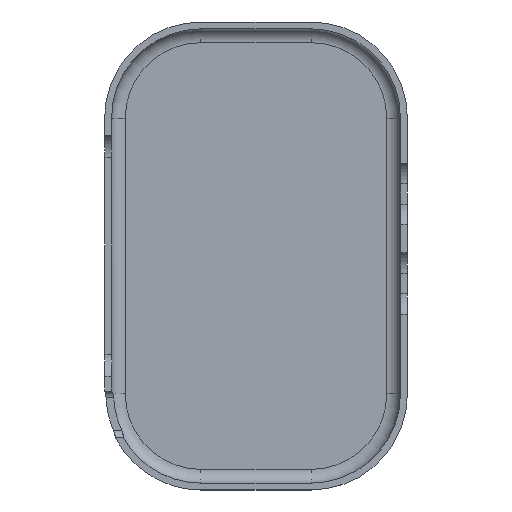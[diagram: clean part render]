
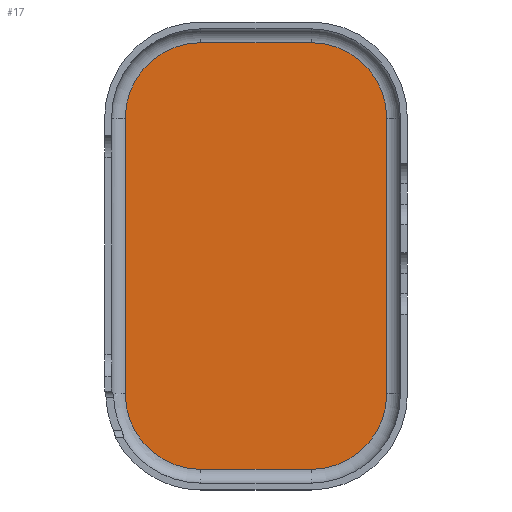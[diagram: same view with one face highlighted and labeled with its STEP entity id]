
A CAD part, top view. The second image highlights one B-rep face of the part: STEP entity #17.
In plain terms, the highlighted planar face has unit normal (0, 0, 1).
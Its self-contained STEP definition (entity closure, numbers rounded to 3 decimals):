
#17 = ADVANCED_FACE('',(#18),#32,.T.);
#18 = FACE_BOUND('',#19,.T.);
#19 = EDGE_LOOP('',(#20,#55,#84,#112,#141,#169,#198,#226));
#20 = ORIENTED_EDGE('',*,*,#21,.T.);
#21 = EDGE_CURVE('',#22,#24,#26,.T.);
#22 = VERTEX_POINT('',#23);
#23 = CARTESIAN_POINT('',(-38.,40.,-11.2));
#24 = VERTEX_POINT('',#25);
#25 = CARTESIAN_POINT('',(-38.,-40.,-11.2));
#26 = SURFACE_CURVE('',#27,(#31,#43),.PCURVE_S1.);
#27 = LINE('',#28,#29);
#28 = CARTESIAN_POINT('',(-38.,33.,-11.2));
#29 = VECTOR('',#30,1.);
#30 = DIRECTION('',(0.,-1.,0.));
#31 = PCURVE('',#32,#37);
#32 = PLANE('',#33);
#33 = AXIS2_PLACEMENT_3D('',#34,#35,#36);
#34 = CARTESIAN_POINT('',(0.,0.,-11.2));
#35 = DIRECTION('',(0.,0.,1.));
#36 = DIRECTION('',(1.,0.,-0.));
#37 = DEFINITIONAL_REPRESENTATION('',(#38),#42);
#38 = LINE('',#39,#40);
#39 = CARTESIAN_POINT('',(-38.,33.));
#40 = VECTOR('',#41,1.);
#41 = DIRECTION('',(0.,-1.));
#42 = ( GEOMETRIC_REPRESENTATION_CONTEXT(2) 
PARAMETRIC_REPRESENTATION_CONTEXT() REPRESENTATION_CONTEXT('2D SPACE',''
  ) );
#43 = PCURVE('',#44,#49);
#44 = CYLINDRICAL_SURFACE('',#45,4.);
#45 = AXIS2_PLACEMENT_3D('',#46,#47,#48);
#46 = CARTESIAN_POINT('',(-38.,33.,-7.2));
#47 = DIRECTION('',(0.,-1.,0.));
#48 = DIRECTION('',(-0.707,-0.,-0.707));
#49 = DEFINITIONAL_REPRESENTATION('',(#50),#54);
#50 = LINE('',#51,#52);
#51 = CARTESIAN_POINT('',(7.069,0.));
#52 = VECTOR('',#53,1.);
#53 = DIRECTION('',(0.,1.));
#54 = ( GEOMETRIC_REPRESENTATION_CONTEXT(2) 
PARAMETRIC_REPRESENTATION_CONTEXT() REPRESENTATION_CONTEXT('2D SPACE',''
  ) );
#55 = ORIENTED_EDGE('',*,*,#56,.T.);
#56 = EDGE_CURVE('',#24,#57,#59,.T.);
#57 = VERTEX_POINT('',#58);
#58 = CARTESIAN_POINT('',(-16.,-62.,-11.2));
#59 = SURFACE_CURVE('',#60,(#65,#72),.PCURVE_S1.);
#60 = CIRCLE('',#61,22.);
#61 = AXIS2_PLACEMENT_3D('',#62,#63,#64);
#62 = CARTESIAN_POINT('',(-16.,-40.,-11.2));
#63 = DIRECTION('',(0.,0.,1.));
#64 = DIRECTION('',(-0.707,-0.707,0.));
#65 = PCURVE('',#32,#66);
#66 = DEFINITIONAL_REPRESENTATION('',(#67),#71);
#67 = CIRCLE('',#68,22.);
#68 = AXIS2_PLACEMENT_2D('',#69,#70);
#69 = CARTESIAN_POINT('',(-16.,-40.));
#70 = DIRECTION('',(-0.707,-0.707));
#71 = ( GEOMETRIC_REPRESENTATION_CONTEXT(2) 
PARAMETRIC_REPRESENTATION_CONTEXT() REPRESENTATION_CONTEXT('2D SPACE',''
  ) );
#72 = PCURVE('',#73,#78);
#73 = TOROIDAL_SURFACE('',#74,22.,4.);
#74 = AXIS2_PLACEMENT_3D('',#75,#76,#77);
#75 = CARTESIAN_POINT('',(-16.,-40.,-7.2));
#76 = DIRECTION('',(0.,0.,1.));
#77 = DIRECTION('',(1.,0.,-0.));
#78 = DEFINITIONAL_REPRESENTATION('',(#79),#83);
#79 = LINE('',#80,#81);
#80 = CARTESIAN_POINT('',(-2.356,4.712));
#81 = VECTOR('',#82,1.);
#82 = DIRECTION('',(1.,0.));
#83 = ( GEOMETRIC_REPRESENTATION_CONTEXT(2) 
PARAMETRIC_REPRESENTATION_CONTEXT() REPRESENTATION_CONTEXT('2D SPACE',''
  ) );
#84 = ORIENTED_EDGE('',*,*,#85,.T.);
#85 = EDGE_CURVE('',#57,#86,#88,.T.);
#86 = VERTEX_POINT('',#87);
#87 = CARTESIAN_POINT('',(16.,-62.,-11.2));
#88 = SURFACE_CURVE('',#89,(#93,#100),.PCURVE_S1.);
#89 = LINE('',#90,#91);
#90 = CARTESIAN_POINT('',(-21.,-62.,-11.2));
#91 = VECTOR('',#92,1.);
#92 = DIRECTION('',(1.,0.,0.));
#93 = PCURVE('',#32,#94);
#94 = DEFINITIONAL_REPRESENTATION('',(#95),#99);
#95 = LINE('',#96,#97);
#96 = CARTESIAN_POINT('',(-21.,-62.));
#97 = VECTOR('',#98,1.);
#98 = DIRECTION('',(1.,0.));
#99 = ( GEOMETRIC_REPRESENTATION_CONTEXT(2) 
PARAMETRIC_REPRESENTATION_CONTEXT() REPRESENTATION_CONTEXT('2D SPACE',''
  ) );
#100 = PCURVE('',#101,#106);
#101 = CYLINDRICAL_SURFACE('',#102,4.);
#102 = AXIS2_PLACEMENT_3D('',#103,#104,#105);
#103 = CARTESIAN_POINT('',(-21.,-62.,-7.2));
#104 = DIRECTION('',(1.,0.,0.));
#105 = DIRECTION('',(0.,-0.707,-0.707));
#106 = DEFINITIONAL_REPRESENTATION('',(#107),#111);
#107 = LINE('',#108,#109);
#108 = CARTESIAN_POINT('',(0.785,0.));
#109 = VECTOR('',#110,1.);
#110 = DIRECTION('',(0.,1.));
#111 = ( GEOMETRIC_REPRESENTATION_CONTEXT(2) 
PARAMETRIC_REPRESENTATION_CONTEXT() REPRESENTATION_CONTEXT('2D SPACE',''
  ) );
#112 = ORIENTED_EDGE('',*,*,#113,.T.);
#113 = EDGE_CURVE('',#86,#114,#116,.T.);
#114 = VERTEX_POINT('',#115);
#115 = CARTESIAN_POINT('',(38.,-40.,-11.2));
#116 = SURFACE_CURVE('',#117,(#122,#129),.PCURVE_S1.);
#117 = CIRCLE('',#118,22.);
#118 = AXIS2_PLACEMENT_3D('',#119,#120,#121);
#119 = CARTESIAN_POINT('',(16.,-40.,-11.2));
#120 = DIRECTION('',(0.,0.,1.));
#121 = DIRECTION('',(0.707,-0.707,0.));
#122 = PCURVE('',#32,#123);
#123 = DEFINITIONAL_REPRESENTATION('',(#124),#128);
#124 = CIRCLE('',#125,22.);
#125 = AXIS2_PLACEMENT_2D('',#126,#127);
#126 = CARTESIAN_POINT('',(16.,-40.));
#127 = DIRECTION('',(0.707,-0.707));
#128 = ( GEOMETRIC_REPRESENTATION_CONTEXT(2) 
PARAMETRIC_REPRESENTATION_CONTEXT() REPRESENTATION_CONTEXT('2D SPACE',''
  ) );
#129 = PCURVE('',#130,#135);
#130 = TOROIDAL_SURFACE('',#131,22.,4.);
#131 = AXIS2_PLACEMENT_3D('',#132,#133,#134);
#132 = CARTESIAN_POINT('',(16.,-40.,-7.2));
#133 = DIRECTION('',(0.,0.,1.));
#134 = DIRECTION('',(1.,0.,-0.));
#135 = DEFINITIONAL_REPRESENTATION('',(#136),#140);
#136 = LINE('',#137,#138);
#137 = CARTESIAN_POINT('',(-0.785,4.712));
#138 = VECTOR('',#139,1.);
#139 = DIRECTION('',(1.,0.));
#140 = ( GEOMETRIC_REPRESENTATION_CONTEXT(2) 
PARAMETRIC_REPRESENTATION_CONTEXT() REPRESENTATION_CONTEXT('2D SPACE',''
  ) );
#141 = ORIENTED_EDGE('',*,*,#142,.T.);
#142 = EDGE_CURVE('',#114,#143,#145,.T.);
#143 = VERTEX_POINT('',#144);
#144 = CARTESIAN_POINT('',(38.,40.,-11.2));
#145 = SURFACE_CURVE('',#146,(#150,#157),.PCURVE_S1.);
#146 = LINE('',#147,#148);
#147 = CARTESIAN_POINT('',(38.,-33.,-11.2));
#148 = VECTOR('',#149,1.);
#149 = DIRECTION('',(0.,1.,0.));
#150 = PCURVE('',#32,#151);
#151 = DEFINITIONAL_REPRESENTATION('',(#152),#156);
#152 = LINE('',#153,#154);
#153 = CARTESIAN_POINT('',(38.,-33.));
#154 = VECTOR('',#155,1.);
#155 = DIRECTION('',(0.,1.));
#156 = ( GEOMETRIC_REPRESENTATION_CONTEXT(2) 
PARAMETRIC_REPRESENTATION_CONTEXT() REPRESENTATION_CONTEXT('2D SPACE',''
  ) );
#157 = PCURVE('',#158,#163);
#158 = CYLINDRICAL_SURFACE('',#159,4.);
#159 = AXIS2_PLACEMENT_3D('',#160,#161,#162);
#160 = CARTESIAN_POINT('',(38.,-33.,-7.2));
#161 = DIRECTION('',(0.,1.,0.));
#162 = DIRECTION('',(0.707,0.,-0.707));
#163 = DEFINITIONAL_REPRESENTATION('',(#164),#168);
#164 = LINE('',#165,#166);
#165 = CARTESIAN_POINT('',(7.069,0.));
#166 = VECTOR('',#167,1.);
#167 = DIRECTION('',(0.,1.));
#168 = ( GEOMETRIC_REPRESENTATION_CONTEXT(2) 
PARAMETRIC_REPRESENTATION_CONTEXT() REPRESENTATION_CONTEXT('2D SPACE',''
  ) );
#169 = ORIENTED_EDGE('',*,*,#170,.T.);
#170 = EDGE_CURVE('',#143,#171,#173,.T.);
#171 = VERTEX_POINT('',#172);
#172 = CARTESIAN_POINT('',(16.,62.,-11.2));
#173 = SURFACE_CURVE('',#174,(#179,#186),.PCURVE_S1.);
#174 = CIRCLE('',#175,22.);
#175 = AXIS2_PLACEMENT_3D('',#176,#177,#178);
#176 = CARTESIAN_POINT('',(16.,40.,-11.2));
#177 = DIRECTION('',(0.,0.,1.));
#178 = DIRECTION('',(0.707,0.707,-0.));
#179 = PCURVE('',#32,#180);
#180 = DEFINITIONAL_REPRESENTATION('',(#181),#185);
#181 = CIRCLE('',#182,22.);
#182 = AXIS2_PLACEMENT_2D('',#183,#184);
#183 = CARTESIAN_POINT('',(16.,40.));
#184 = DIRECTION('',(0.707,0.707));
#185 = ( GEOMETRIC_REPRESENTATION_CONTEXT(2) 
PARAMETRIC_REPRESENTATION_CONTEXT() REPRESENTATION_CONTEXT('2D SPACE',''
  ) );
#186 = PCURVE('',#187,#192);
#187 = TOROIDAL_SURFACE('',#188,22.,4.);
#188 = AXIS2_PLACEMENT_3D('',#189,#190,#191);
#189 = CARTESIAN_POINT('',(16.,40.,-7.2));
#190 = DIRECTION('',(0.,0.,1.));
#191 = DIRECTION('',(1.,0.,-0.));
#192 = DEFINITIONAL_REPRESENTATION('',(#193),#197);
#193 = LINE('',#194,#195);
#194 = CARTESIAN_POINT('',(-5.498,4.712));
#195 = VECTOR('',#196,1.);
#196 = DIRECTION('',(1.,0.));
#197 = ( GEOMETRIC_REPRESENTATION_CONTEXT(2) 
PARAMETRIC_REPRESENTATION_CONTEXT() REPRESENTATION_CONTEXT('2D SPACE',''
  ) );
#198 = ORIENTED_EDGE('',*,*,#199,.T.);
#199 = EDGE_CURVE('',#171,#200,#202,.T.);
#200 = VERTEX_POINT('',#201);
#201 = CARTESIAN_POINT('',(-16.,62.,-11.2));
#202 = SURFACE_CURVE('',#203,(#207,#214),.PCURVE_S1.);
#203 = LINE('',#204,#205);
#204 = CARTESIAN_POINT('',(21.,62.,-11.2));
#205 = VECTOR('',#206,1.);
#206 = DIRECTION('',(-1.,0.,0.));
#207 = PCURVE('',#32,#208);
#208 = DEFINITIONAL_REPRESENTATION('',(#209),#213);
#209 = LINE('',#210,#211);
#210 = CARTESIAN_POINT('',(21.,62.));
#211 = VECTOR('',#212,1.);
#212 = DIRECTION('',(-1.,0.));
#213 = ( GEOMETRIC_REPRESENTATION_CONTEXT(2) 
PARAMETRIC_REPRESENTATION_CONTEXT() REPRESENTATION_CONTEXT('2D SPACE',''
  ) );
#214 = PCURVE('',#215,#220);
#215 = CYLINDRICAL_SURFACE('',#216,4.);
#216 = AXIS2_PLACEMENT_3D('',#217,#218,#219);
#217 = CARTESIAN_POINT('',(21.,62.,-7.2));
#218 = DIRECTION('',(-1.,0.,0.));
#219 = DIRECTION('',(0.,0.707,-0.707));
#220 = DEFINITIONAL_REPRESENTATION('',(#221),#225);
#221 = LINE('',#222,#223);
#222 = CARTESIAN_POINT('',(0.785,0.));
#223 = VECTOR('',#224,1.);
#224 = DIRECTION('',(0.,1.));
#225 = ( GEOMETRIC_REPRESENTATION_CONTEXT(2) 
PARAMETRIC_REPRESENTATION_CONTEXT() REPRESENTATION_CONTEXT('2D SPACE',''
  ) );
#226 = ORIENTED_EDGE('',*,*,#227,.T.);
#227 = EDGE_CURVE('',#200,#22,#228,.T.);
#228 = SURFACE_CURVE('',#229,(#234,#241),.PCURVE_S1.);
#229 = CIRCLE('',#230,22.);
#230 = AXIS2_PLACEMENT_3D('',#231,#232,#233);
#231 = CARTESIAN_POINT('',(-16.,40.,-11.2));
#232 = DIRECTION('',(0.,0.,1.));
#233 = DIRECTION('',(-0.707,0.707,0.));
#234 = PCURVE('',#32,#235);
#235 = DEFINITIONAL_REPRESENTATION('',(#236),#240);
#236 = CIRCLE('',#237,22.);
#237 = AXIS2_PLACEMENT_2D('',#238,#239);
#238 = CARTESIAN_POINT('',(-16.,40.));
#239 = DIRECTION('',(-0.707,0.707));
#240 = ( GEOMETRIC_REPRESENTATION_CONTEXT(2) 
PARAMETRIC_REPRESENTATION_CONTEXT() REPRESENTATION_CONTEXT('2D SPACE',''
  ) );
#241 = PCURVE('',#242,#247);
#242 = TOROIDAL_SURFACE('',#243,22.,4.);
#243 = AXIS2_PLACEMENT_3D('',#244,#245,#246);
#244 = CARTESIAN_POINT('',(-16.,40.,-7.2));
#245 = DIRECTION('',(0.,0.,1.));
#246 = DIRECTION('',(1.,0.,-0.));
#247 = DEFINITIONAL_REPRESENTATION('',(#248),#252);
#248 = LINE('',#249,#250);
#249 = CARTESIAN_POINT('',(-3.927,4.712));
#250 = VECTOR('',#251,1.);
#251 = DIRECTION('',(1.,0.));
#252 = ( GEOMETRIC_REPRESENTATION_CONTEXT(2) 
PARAMETRIC_REPRESENTATION_CONTEXT() REPRESENTATION_CONTEXT('2D SPACE',''
  ) );
